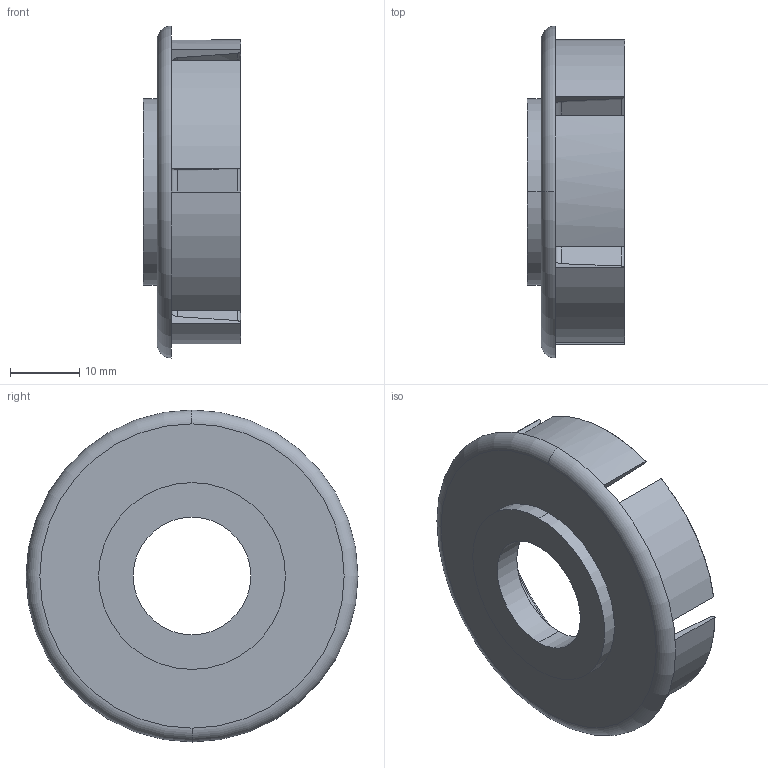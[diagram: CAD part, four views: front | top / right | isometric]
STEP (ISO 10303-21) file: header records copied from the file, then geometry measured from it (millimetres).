
FILE_DESCRIPTION (( 'STEP AP203' ), '1' );
FILE_NAME ('084.810.001.STEP', '2013-01-29T12:38:29', ( 'Alusic' ), ( 'Alusic' ), 'SwSTEP 2.0', 'SolidWorks 2011', '' );
FILE_SCHEMA (( 'CONFIG_CONTROL_DESIGN' ));
Length unit declared in the file: millimetre
Products named in the file (1): 084.810.001
Bounding box: 14.04 x 48 x 48 mm (x, y, z)
Volume: 4765.5 mm3; surface area: 5995.1 mm2
Topology: 1 solids, 1 shells, 53 faces, 132 edges, 88 vertices
Faces by surface type: plane 21, torus 16, cylinder 10, cone 6
Entity records: 1707 total; most frequent: DIRECTION 320, CARTESIAN_POINT 274, ORIENTED_EDGE 264, AXIS2_PLACEMENT_3D 134, EDGE_CURVE 132, VERTEX_POINT 88, CIRCLE 80, EDGE_LOOP 62
